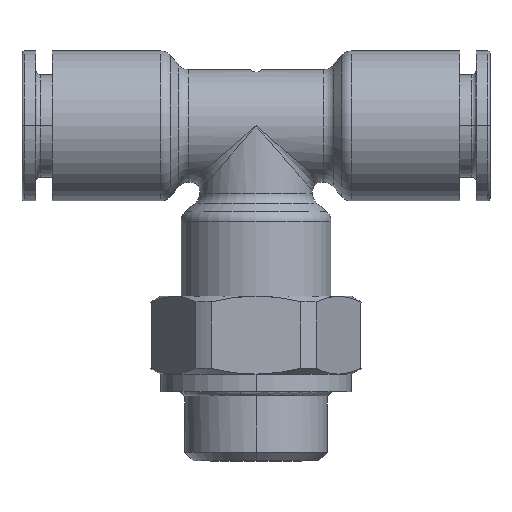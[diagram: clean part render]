
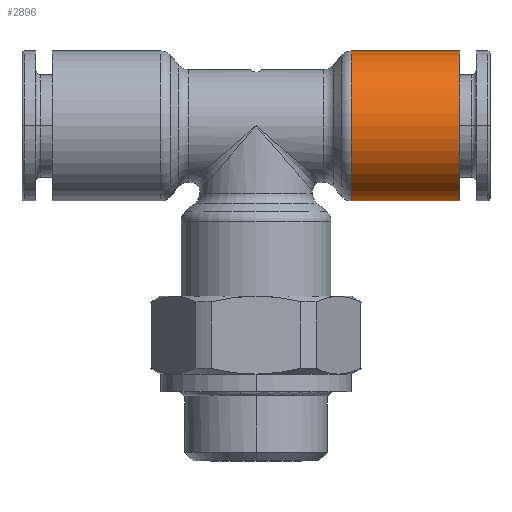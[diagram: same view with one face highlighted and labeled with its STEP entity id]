
A CAD part, top view. The second image highlights one B-rep face of the part: STEP entity #2896.
In plain terms, the highlighted cylindrical face has radius 8.65 mm (diameter 17.3 mm), a partial arc.
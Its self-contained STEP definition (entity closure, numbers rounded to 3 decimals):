
#561 = AXIS2_PLACEMENT_3D ( 'NONE', #8154, #14386, #5780 ) ;
#968 = DIRECTION ( 'NONE',  ( 0., 1., 0. ) ) ;
#1889 = AXIS2_PLACEMENT_3D ( 'NONE', #13067, #1938, #10308 ) ;
#1938 = DIRECTION ( 'NONE',  ( 1., 0., 0. ) ) ;
#2100 = DIRECTION ( 'NONE',  ( 1., 0., 0. ) ) ;
#2896 = ADVANCED_FACE ( 'NONE', ( #13138 ), #14275, .T. ) ;
#3442 = ORIENTED_EDGE ( 'NONE', *, *, #5759, .F. ) ;
#3558 = VERTEX_POINT ( 'NONE', #12447 ) ;
#3794 = VECTOR ( 'NONE', #13103, 1000. ) ;
#4056 = VERTEX_POINT ( 'NONE', #10943 ) ;
#4354 = LINE ( 'NONE', #11817, #3794 ) ;
#4461 = AXIS2_PLACEMENT_3D ( 'NONE', #11045, #2100, #968 ) ;
#5239 = CIRCLE ( 'NONE', #561, 8.65 ) ;
#5759 = EDGE_CURVE ( 'NONE', #10753, #9194, #4354, .T. ) ;
#5780 = DIRECTION ( 'NONE',  ( 0., 0., -1. ) ) ;
#6281 = EDGE_CURVE ( 'NONE', #4056, #3558, #7165, .T. ) ;
#6289 = EDGE_LOOP ( 'NONE', ( #15799, #13519, #10604, #3442 ) ) ;
#7165 = LINE ( 'NONE', #13468, #14700 ) ;
#7443 = CARTESIAN_POINT ( 'NONE',  ( 23.5, 8.65, 0. ) ) ;
#8154 = CARTESIAN_POINT ( 'NONE',  ( 23.5, 0., 0. ) ) ;
#9194 = VERTEX_POINT ( 'NONE', #7443 ) ;
#10303 = EDGE_CURVE ( 'NONE', #10753, #4056, #10374, .T. ) ;
#10308 = DIRECTION ( 'NONE',  ( 0., 1., 0. ) ) ;
#10374 = CIRCLE ( 'NONE', #4461, 8.65 ) ;
#10578 = CARTESIAN_POINT ( 'NONE',  ( 10.999, 8.65, 0. ) ) ;
#10604 = ORIENTED_EDGE ( 'NONE', *, *, #10726, .T. ) ;
#10726 = EDGE_CURVE ( 'NONE', #3558, #9194, #5239, .T. ) ;
#10753 = VERTEX_POINT ( 'NONE', #10578 ) ;
#10943 = CARTESIAN_POINT ( 'NONE',  ( 10.999, -8.65, 0. ) ) ;
#11045 = CARTESIAN_POINT ( 'NONE',  ( 10.999, 0., 0. ) ) ;
#11056 = DIRECTION ( 'NONE',  ( 1., 0., 0. ) ) ;
#11817 = CARTESIAN_POINT ( 'NONE',  ( 23., 8.65, 0. ) ) ;
#12447 = CARTESIAN_POINT ( 'NONE',  ( 23.5, -8.65, 0. ) ) ;
#13067 = CARTESIAN_POINT ( 'NONE',  ( 23., 0., 0. ) ) ;
#13103 = DIRECTION ( 'NONE',  ( 1., 0., 0. ) ) ;
#13138 = FACE_OUTER_BOUND ( 'NONE', #6289, .T. ) ;
#13468 = CARTESIAN_POINT ( 'NONE',  ( 23., -8.65, 0. ) ) ;
#13519 = ORIENTED_EDGE ( 'NONE', *, *, #6281, .T. ) ;
#14275 = CYLINDRICAL_SURFACE ( 'NONE', #1889, 8.65 ) ;
#14386 = DIRECTION ( 'NONE',  ( -1., 0., 0. ) ) ;
#14700 = VECTOR ( 'NONE', #11056, 1000. ) ;
#15799 = ORIENTED_EDGE ( 'NONE', *, *, #10303, .T. ) ;
